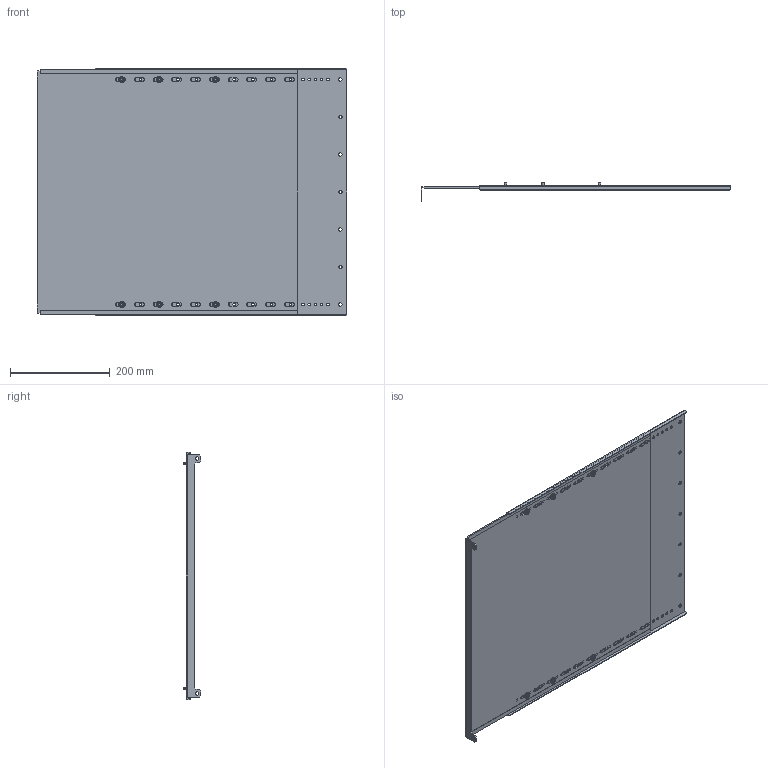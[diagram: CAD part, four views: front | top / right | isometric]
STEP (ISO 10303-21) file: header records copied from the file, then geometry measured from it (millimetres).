
FILE_DESCRIPTION (( 'STEP AP214' ), '1' );
FILE_NAME ('FO-00-SWVB-050-060 Ïåðåãîðîäêà ñåêöèîíèðîâàíèÿ âåðòèêàëüíàÿ äëÿ âåðòèêàëüíîãî øèííîãî îòñåêà 500õ600 ìì â øêàô ãëóáèíîé 1000 ìì.STEP', '2025-08-08T09:47:52', ( '' ), ( '' ), 'SwSTEP 2.0', 'SolidWorks 2023', '' );
FILE_SCHEMA (( 'AUTOMOTIVE_DESIGN' ));
Length unit declared in the file: millimetre
Products named in the file (4): Болты М5 х500; Перегородка секционирования ап 500х600; FO-00-SWVB-050-060 Перегородка секционирования вертикальная для вертикального шинного отсека 500х600 мм в шкаф глубиной 1000 мм; Перегородка секционирования 500х600
Assembly tree (5 placements, depth 2):
  FO-00-SWVB-050-060 Перегородка секционирования вертикальная для вертикального шинного отсека 500х600 мм в шкаф глубиной 1000 мм
    Перегородка секционирования ап 500х600
    Перегородка секционирования 500х600
    Болты М5 х500  x3
Bounding box: 619.75 x 35.7 x 494.5 mm (x, y, z)
Volume: 788188.1 mm3; surface area: 1043501.6 mm2
Topology: 8 solids, 8 shells, 468 faces, 1284 edges, 844 vertices
Faces by surface type: cylinder 316, plane 116, torus 24, cone 12
Entity records: 12286 total; most frequent: DIRECTION 2228, CARTESIAN_POINT 2036, ORIENTED_EDGE 2016, EDGE_CURVE 1008, AXIS2_PLACEMENT_3D 860, VERTEX_POINT 668, EDGE_LOOP 558, LINE 508
